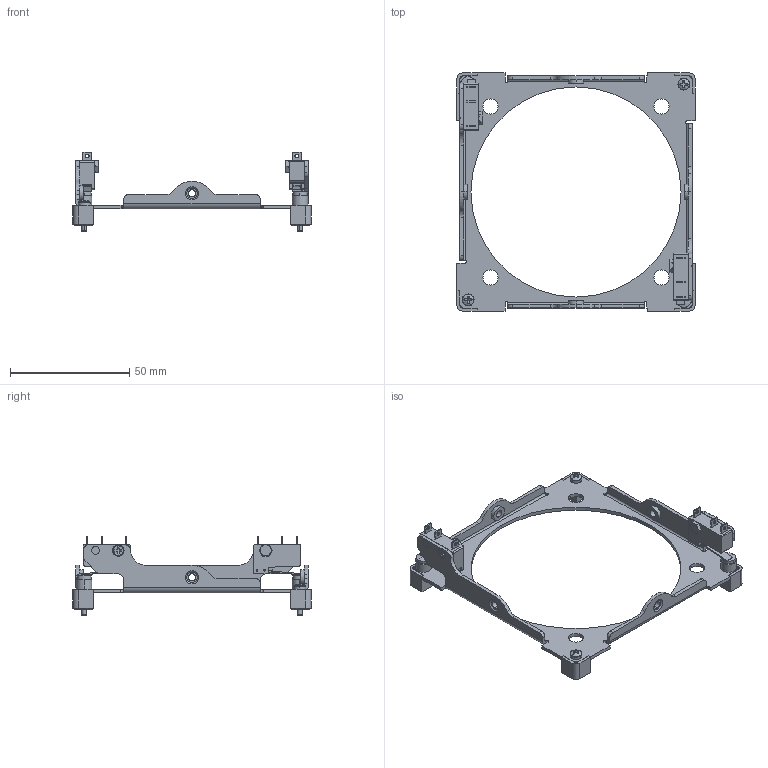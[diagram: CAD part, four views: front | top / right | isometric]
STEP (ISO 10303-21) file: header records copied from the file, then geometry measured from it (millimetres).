
FILE_DESCRIPTION (( 'STEP AP214' ), '1' );
FILE_NAME ('710-00713-A0 Cover Plate, Large Aperture, Dual Switch.STEP', '2017-11-14T17:15:25', ( '' ), ( '' ), 'SwSTEP 2.0', 'SolidWorks 2014', '' );
FILE_SCHEMA (( 'AUTOMOTIVE_DESIGN' ));
Length unit declared in the file: inch
Products named in the file (2): 710-00713-A0 Cover Plate, Large Aperture, Dual Switch
Bounding box: 100 x 100 x 33.21 mm (x, y, z)
Volume: 13044.1 mm3; surface area: 15085.6 mm2
Topology: 1 solids, 3 shells, 612 faces, 1643 edges, 1044 vertices
Faces by surface type: plane 379, cylinder 171, cone 36, torus 18, sphere 8
Entity records: 24051 total; most frequent: CARTESIAN_POINT 3487, DIRECTION 3355, ORIENTED_EDGE 3286, EDGE_CURVE 1643, AXIS2_PLACEMENT_3D 1132, LINE 1091, VECTOR 1091, VERTEX_POINT 1044
